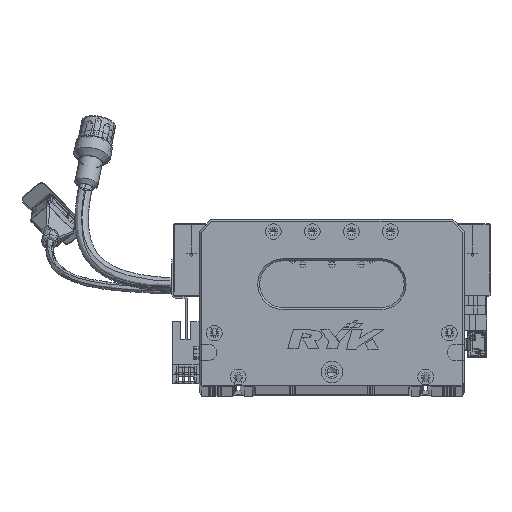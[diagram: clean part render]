
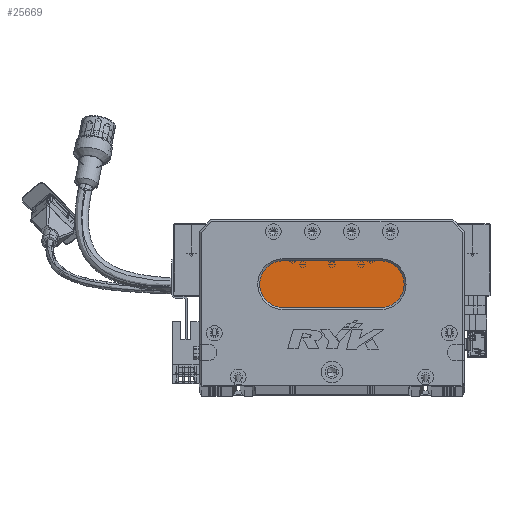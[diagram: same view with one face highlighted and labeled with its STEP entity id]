
A CAD part, top view. The second image highlights one B-rep face of the part: STEP entity #25669.
In plain terms, the highlighted planar face has unit normal (0, 0, 1) as drawn and (0, 0, -1) by its records, which use the part's own axes.
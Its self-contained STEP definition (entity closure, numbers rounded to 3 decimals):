
#2384 = VERTEX_POINT ( 'NONE', #52151 ) ;
#2642 = DIRECTION ( 'NONE',  ( -1., 0., 0. ) ) ;
#2931 = ORIENTED_EDGE ( 'NONE', *, *, #95494, .T. ) ;
#4251 = CIRCLE ( 'NONE', #122383, 12. ) ;
#8187 = ORIENTED_EDGE ( 'NONE', *, *, #129758, .T. ) ;
#9072 = DIRECTION ( 'NONE',  ( 0., 0., -1. ) ) ;
#15915 = CARTESIAN_POINT ( 'NONE',  ( 93., 52., 13. ) ) ;
#16743 = CARTESIAN_POINT ( 'NONE',  ( 93., 64., 13. ) ) ;
#16795 = CARTESIAN_POINT ( 'NONE',  ( 93., 64., 13. ) ) ;
#19201 = VERTEX_POINT ( 'NONE', #99607 ) ;
#20307 = DIRECTION ( 'NONE',  ( -1., 0., 0. ) ) ;
#25669 = ADVANCED_FACE ( 'NONE', ( #131810 ), #71239, .T. ) ;
#26872 = VECTOR ( 'NONE', #2642, 1000. ) ;
#30291 = CARTESIAN_POINT ( 'NONE',  ( 43., 52., 13. ) ) ;
#32866 = VERTEX_POINT ( 'NONE', #16795 ) ;
#33287 = ORIENTED_EDGE ( 'NONE', *, *, #37497, .T. ) ;
#34795 = VECTOR ( 'NONE', #89380, 1000. ) ;
#37497 = EDGE_CURVE ( 'NONE', #121525, #32866, #78651, .T. ) ;
#38930 = DIRECTION ( 'NONE',  ( 0., 0., -1. ) ) ;
#43157 = VERTEX_POINT ( 'NONE', #70676 ) ;
#44230 = EDGE_LOOP ( 'NONE', ( #2931, #8187, #117342, #54676, #33287 ) ) ;
#52151 = CARTESIAN_POINT ( 'NONE',  ( 93., 40., 13. ) ) ;
#54558 = LINE ( 'NONE', #64379, #26872 ) ;
#54676 = ORIENTED_EDGE ( 'NONE', *, *, #129101, .T. ) ;
#60221 = CARTESIAN_POINT ( 'NONE',  ( 43., 52., 13. ) ) ;
#61263 = CARTESIAN_POINT ( 'NONE',  ( 93., 52., 13. ) ) ;
#61601 = DIRECTION ( 'NONE',  ( 0., 0., -1. ) ) ;
#64379 = CARTESIAN_POINT ( 'NONE',  ( 93., 40., 13. ) ) ;
#70676 = CARTESIAN_POINT ( 'NONE',  ( 43., 40., 13. ) ) ;
#71239 = PLANE ( 'NONE',  #132611 ) ;
#76370 = AXIS2_PLACEMENT_3D ( 'NONE', #60221, #38930, #101587 ) ;
#77235 = DIRECTION ( 'NONE',  ( -1., 0., 0. ) ) ;
#78651 = LINE ( 'NONE', #16743, #34795 ) ;
#88040 = CIRCLE ( 'NONE', #126967, 12. ) ;
#89380 = DIRECTION ( 'NONE',  ( 1., 0., 0. ) ) ;
#91738 = DIRECTION ( 'NONE',  ( -1., 0., 0. ) ) ;
#92613 = EDGE_CURVE ( 'NONE', #43157, #19201, #4251, .T. ) ;
#95494 = EDGE_CURVE ( 'NONE', #32866, #2384, #88040, .T. ) ;
#99607 = CARTESIAN_POINT ( 'NONE',  ( 31., 52., 13. ) ) ;
#100229 = CIRCLE ( 'NONE', #76370, 12. ) ;
#101587 = DIRECTION ( 'NONE',  ( -1., 0., 0. ) ) ;
#108168 = CARTESIAN_POINT ( 'NONE',  ( 43., 64., 13. ) ) ;
#117342 = ORIENTED_EDGE ( 'NONE', *, *, #92613, .T. ) ;
#121525 = VERTEX_POINT ( 'NONE', #108168 ) ;
#122383 = AXIS2_PLACEMENT_3D ( 'NONE', #30291, #61601, #20307 ) ;
#126967 = AXIS2_PLACEMENT_3D ( 'NONE', #15915, #129442, #77235 ) ;
#129101 = EDGE_CURVE ( 'NONE', #19201, #121525, #100229, .T. ) ;
#129442 = DIRECTION ( 'NONE',  ( 0., 0., -1. ) ) ;
#129758 = EDGE_CURVE ( 'NONE', #2384, #43157, #54558, .T. ) ;
#131810 = FACE_OUTER_BOUND ( 'NONE', #44230, .T. ) ;
#132611 = AXIS2_PLACEMENT_3D ( 'NONE', #61263, #9072, #91738 ) ;
